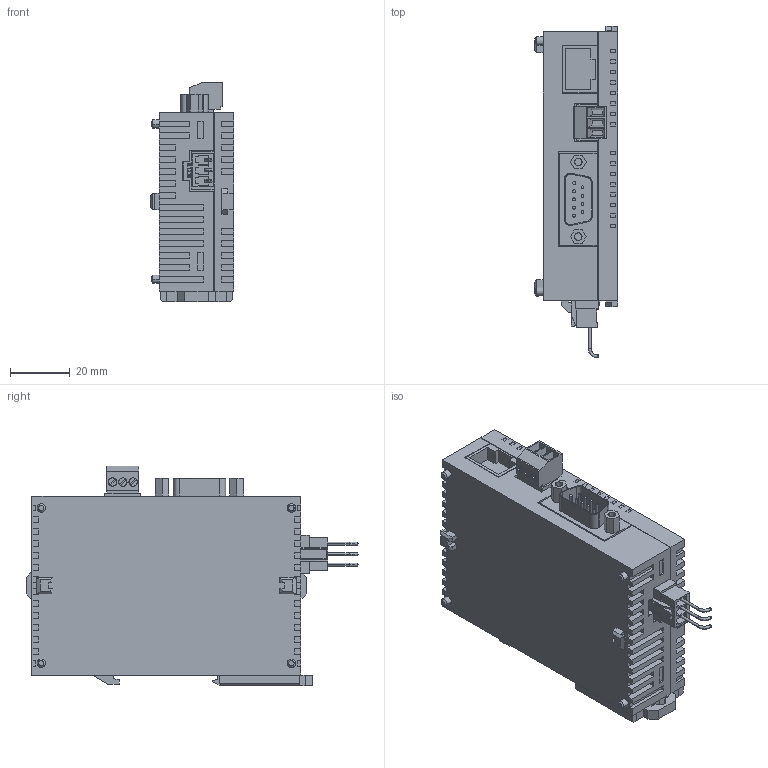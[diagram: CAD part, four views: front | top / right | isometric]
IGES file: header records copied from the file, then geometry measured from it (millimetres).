
Start section: SolidWorks IGES file using analytic representation for surfaces
Global section: file name: C:\catalog\FP0R_catalog\afp0611\afp0611.IGS; native system: SolidWorks 2010; preprocessor: SolidWorks 2010; author: ek1676; date: 130628.135214; units: millimetre
Bounding box: 28 x 111.2 x 73.45 mm (x, y, z)
Surface area: 25877.7 mm2 (no closed solid volume)
Topology: 0 solids, 0 shells, 782 faces, 5595 edges, 5595 vertices
Faces by surface type: bspline 691, revolution 91
